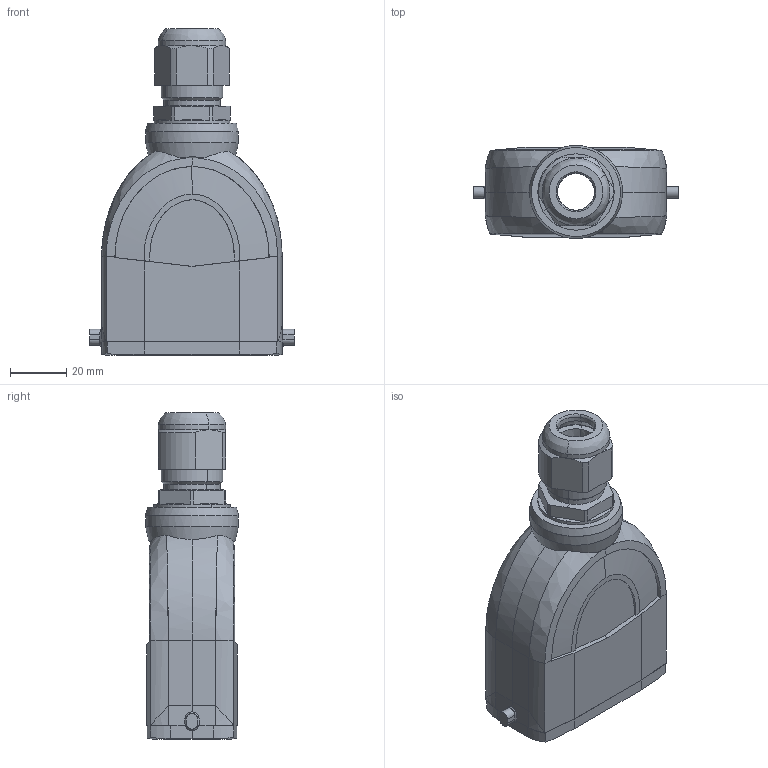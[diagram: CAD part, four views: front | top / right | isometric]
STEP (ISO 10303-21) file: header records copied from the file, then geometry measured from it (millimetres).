
FILE_DESCRIPTION(/* description */ (''),/* implementation_level */ '2;1');
FILE_NAME(/* name */ '100650282ugm000_d.stp',/* time_stamp */ '2022-07-12T13:17:14+02:00',/* author */ (''),/* organization */ (''),/* preprocessor_version */ 'ST-DEVELOPER v16.7',/* originating_system */ 'SIEMENS PLM Software NX 1911',/* authorisation */ '');
FILE_SCHEMA (('AUTOMOTIVE_DESIGN { 1 0 10303 214 3 1 1 1 }'));
Length unit declared in the file: millimetre
Products named in the file (1): 100650282ugm000_d
Bounding box: 72.6 x 32.99 x 115.65 mm (x, y, z)
Volume: 53065.1 mm3; surface area: 34806.9 mm2
Topology: 1 solids, 1 shells, 796 faces, 2199 edges, 1421 vertices
Faces by surface type: plane 411, cylinder 191, bspline 129, cone 35, extrusion 16, torus 14
Full cylindrical faces by diameter (mm): 0.753 x1, 0.986 x1, 3 x4, 3.1 x4, 3.5 x2, 4 x2, 20 x1, 32.9 x1
Entity records: 34492 total; most frequent: CARTESIAN_POINT 13803, ORIENTED_EDGE 4310, DIRECTION 3467, EDGE_CURVE 2155, VERTEX_POINT 1408, VECTOR 1203, LINE 1187, AXIS2_PLACEMENT_3D 1132
